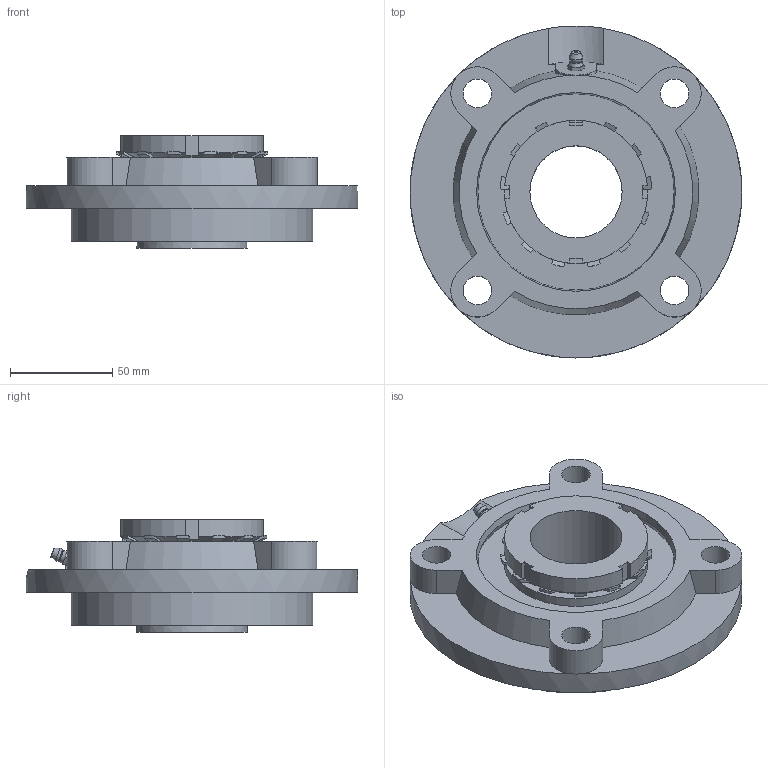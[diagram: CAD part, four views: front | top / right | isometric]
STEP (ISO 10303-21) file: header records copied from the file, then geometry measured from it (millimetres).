
FILE_DESCRIPTION((''),'2;1');
FILE_NAME('\\Ts-tgl068\j-cad-d-base\00.3DCADデータ作成フォルダ\02.フランジ形\UKFCX\UKFCX10+H.stp','2014-12-10T08:24:48',('btec_1106_2'),(''),'Autodesk Inventor 2012','Autodesk Inventor 2012','');
FILE_SCHEMA(('AUTOMOTIVE_DESIGN { 1 0 10303 214 1 1 1 1 }'));
Length unit declared in the file: millimetre
Products named in the file (4): UKFCX00+H; FCX10; UKX10+H; GU1
Assembly tree (3 placements, depth 2):
  UKFCX00+H
    FCX10
    UKX10+H
    GU1
Bounding box: 162 x 162 x 55 mm (x, y, z)
Volume: 436080.6 mm3; surface area: 96704.8 mm2
Topology: 3 solids, 3 shells, 179 faces, 475 edges, 309 vertices
Faces by surface type: plane 76, cone 50, cylinder 47, sphere 4, torus 2
Full cylindrical faces by diameter (mm): 5.359 x1, 6.35 x1, 14 x4, 45 x1, 70 x2, 118 x1, 162 x1
Entity records: 5521 total; most frequent: CARTESIAN_POINT 1261, ORIENTED_EDGE 896, DIRECTION 848, EDGE_CURVE 448, AXIS2_PLACEMENT_3D 346, VERTEX_POINT 303, EDGE_LOOP 221, FACE_OUTER_BOUND 179
